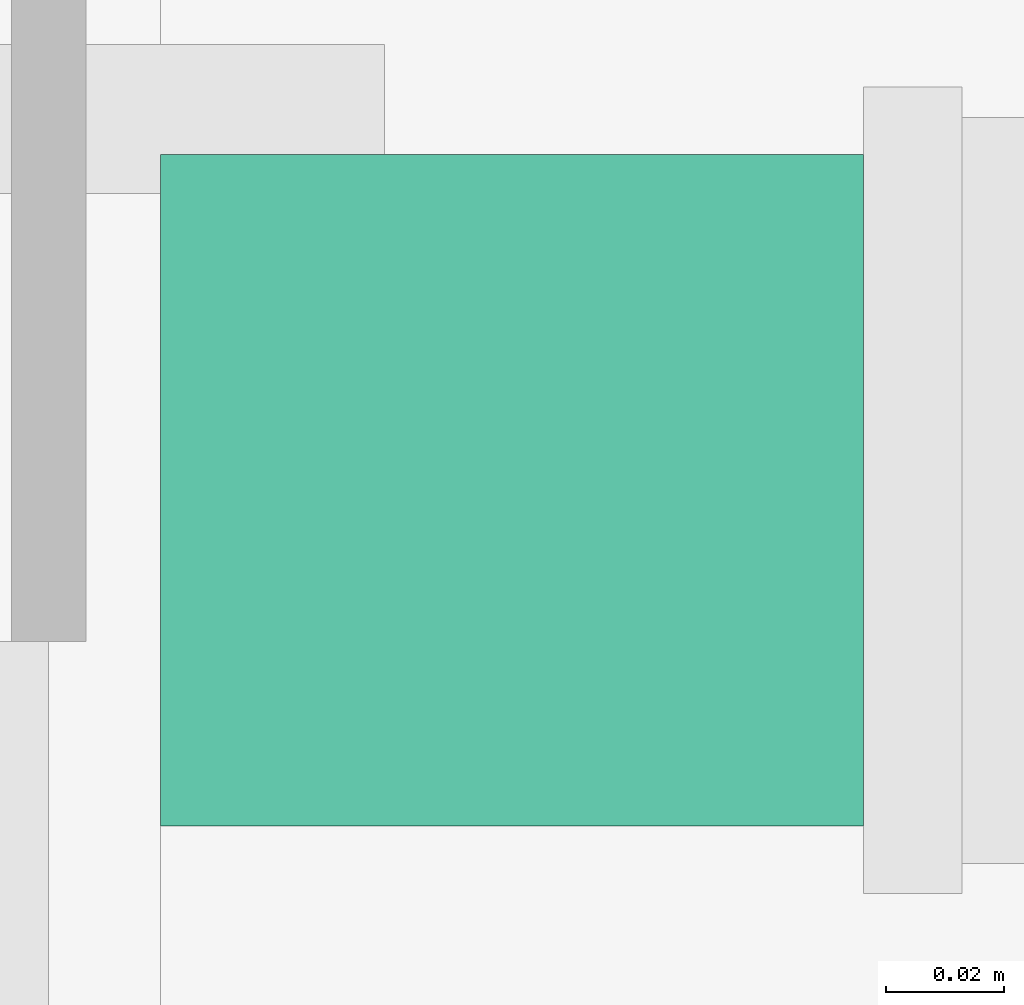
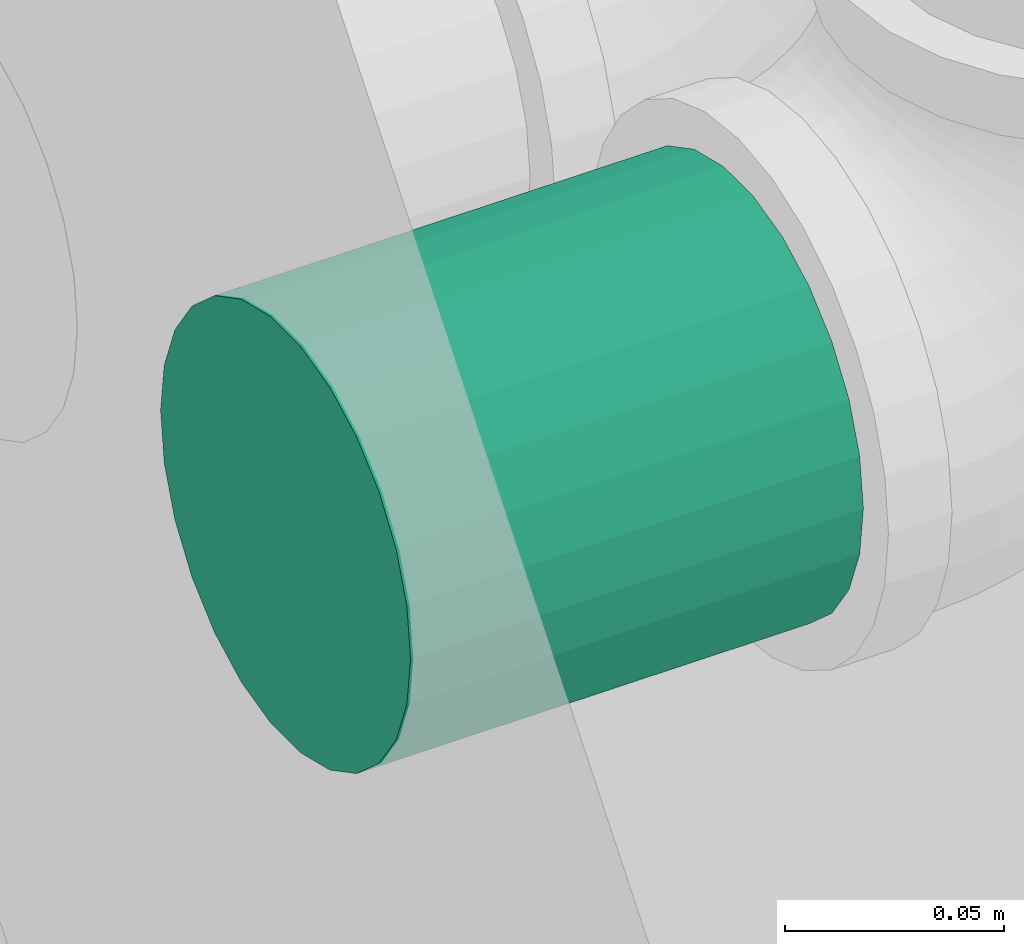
# One storey, part 53 of 108: 1 pipe segment.
"""IFC4 building model written with IfcOpenShell, lengths in feet."""

from ifc_helpers import new_model, entity, si_unit, converted_unit, derived_unit, direction, frame, frame_2d, origin, place, context, subcontext, project, spatial, circle, extrude, type_object, element, save


model = new_model("IFC4")

# Units and contexts
model_context = context("Model", 3, precision=0.0001, world=origin(), true_north=direction((6.12303176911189e-17, 1.0)))
body_context = subcontext(model_context, "Body", "Model", "MODEL_VIEW")
ifc_project = project(units=[converted_unit("LENGTHUNIT", "FOOT", entity("IfcRatioMeasure", 0.3048), si_unit("LENGTHUNIT", "METRE"), dimensions=[1, 0, 0, 0, 0, 0, 0]), converted_unit("AREAUNIT", "SQUARE FOOT", entity("IfcRatioMeasure", 0.09290304), si_unit("AREAUNIT", "SQUARE_METRE"), dimensions=[2, 0, 0, 0, 0, 0, 0]), converted_unit("VOLUMEUNIT", "CUBIC FOOT", entity("IfcRatioMeasure", 0.028316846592), si_unit("VOLUMEUNIT", "CUBIC_METRE"), dimensions=[3, 0, 0, 0, 0, 0, 0]), converted_unit("PLANEANGLEUNIT", "DEGREE", entity("IfcRatioMeasure", 0.0174532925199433), si_unit("PLANEANGLEUNIT", "RADIAN"), dimensions=[0, 0, 0, 0, 0, 0, 0]), si_unit("MASSUNIT", "GRAM", prefix="KILO"), derived_unit("MASSDENSITYUNIT", [(si_unit("MASSUNIT", "GRAM", prefix="KILO"), 1), (si_unit("LENGTHUNIT", "METRE"), -3)]), si_unit("TIMEUNIT", "SECOND"), si_unit("FREQUENCYUNIT", "HERTZ"), si_unit("THERMODYNAMICTEMPERATUREUNIT", "DEGREE_CELSIUS"), derived_unit("THERMALTRANSMITTANCEUNIT", [(si_unit("MASSUNIT", "GRAM", prefix="KILO"), 1), (si_unit("THERMODYNAMICTEMPERATUREUNIT", "KELVIN"), -1), (si_unit("TIMEUNIT", "SECOND"), -3)]), derived_unit("VOLUMETRICFLOWRATEUNIT", [(si_unit("LENGTHUNIT", "METRE"), 3), (si_unit("TIMEUNIT", "SECOND"), -1)]), si_unit("ELECTRICCURRENTUNIT", "AMPERE"), si_unit("ELECTRICVOLTAGEUNIT", "VOLT"), si_unit("POWERUNIT", "WATT"), si_unit("FORCEUNIT", "NEWTON"), si_unit("ILLUMINANCEUNIT", "LUX"), si_unit("LUMINOUSFLUXUNIT", "LUMEN"), si_unit("LUMINOUSINTENSITYUNIT", "CANDELA"), derived_unit("USERDEFINED", [(si_unit("MASSUNIT", "GRAM", prefix="KILO"), -1), (si_unit("LENGTHUNIT", "METRE"), -2), (si_unit("TIMEUNIT", "SECOND"), 3), (si_unit("LUMINOUSFLUXUNIT", "LUMEN"), 1)]), derived_unit("LINEARVELOCITYUNIT", [(si_unit("LENGTHUNIT", "METRE"), 1), (si_unit("TIMEUNIT", "SECOND"), -1)]), si_unit("PRESSUREUNIT", "PASCAL"), derived_unit("USERDEFINED", [(si_unit("LENGTHUNIT", "METRE"), -2), (si_unit("MASSUNIT", "GRAM", prefix="KILO"), 1), (si_unit("TIMEUNIT", "SECOND"), -2)])], contexts=[model_context])

# Site, building, storey
site_placement = place(None, origin())
site = spatial("IfcSite", under=ifc_project, at=site_placement, Name="Default", CompositionType="ELEMENT")
building_placement = place(site_placement, origin())
building = spatial("IfcBuilding", under=site, at=building_placement, CompositionType="ELEMENT")
storey_placement = place(building_placement, frame((0.0, 0.0, 168.0)))
storey = spatial("IfcBuildingStorey", under=building, at=storey_placement, Name="Level 15", CompositionType="ELEMENT", Elevation=168.0)

# Pipe segment
pipe_segment_type = type_object("IfcPipeSegmentType", Name="Pipe Types:Hydronic", PredefinedType="NOTDEFINED")
pipe_segment_placement = place(storey_placement, frame((-59.6715067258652, 11.4370127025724, 9.39059950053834)))
element("IfcPipeSegment", 1, at=pipe_segment_placement, inside=storey, type_object=pipe_segment_type, Name="Pipe Types:Hydronic", ObjectType="Pipe Types:Hydronic", PredefinedType="NOTDEFINED", context=body_context, shape_type="SweptSolid", body=[
    extrude(circle(Radius=0.1875, at=frame_2d((1.77635683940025e-15, 0.0), x_axis=(1.0, 0.0))), frame((0.0, 0.192733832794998, 0.192733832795), z_axis=(1.0, 0.0, 0.0), x_axis=(0.0, 1.0, 0.0)), (0.0, 0.0, 1.0), 0.392293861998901),
])

save(model, "model.ifc")
